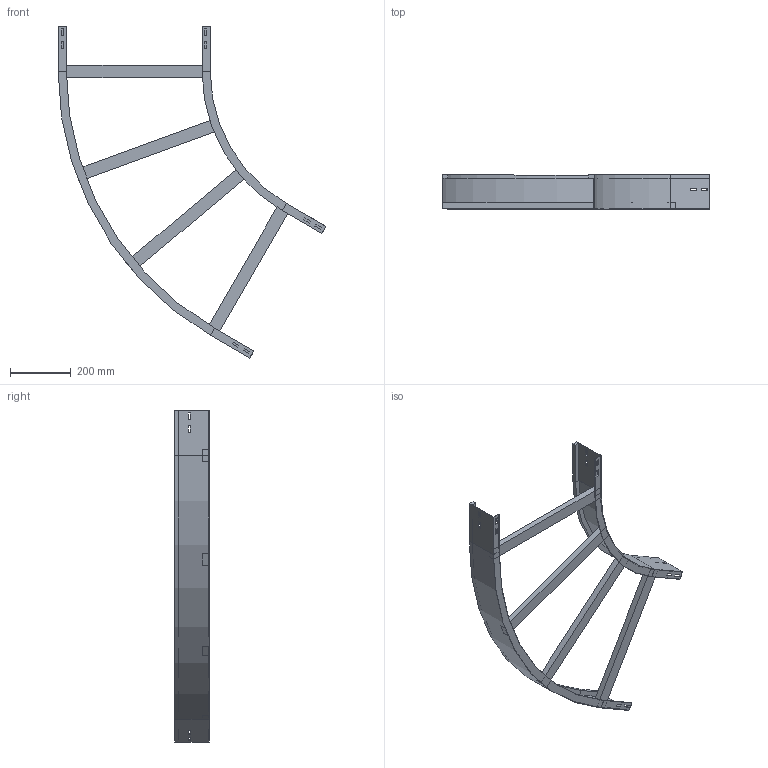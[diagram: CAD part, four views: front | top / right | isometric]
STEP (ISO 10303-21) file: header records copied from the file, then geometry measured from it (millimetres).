
FILE_DESCRIPTION (( 'STEP AP214' ), '1' );
FILE_NAME ('13B5J500.step', '2025-02-21T15:18:58', ( '' ), ( '' ), 'SwSTEP 2.0', 'SolidWorks 2023', '' );
FILE_SCHEMA (( 'AUTOMOTIVE_DESIGN' ));
Length unit declared in the file: millimetre
Products named in the file (4): 13B5J500; A2_LONGH.INTERNO 60°_H112.5_R500; A2_LONGH.ESTERNO 60°_H112.5_R500+500; TRAVERSINO_500
Assembly tree (6 placements, depth 2):
  13B5J500
    A2_LONGH.INTERNO 60°_H112.5_R500
    A2_LONGH.ESTERNO 60°_H112.5_R500+500
    TRAVERSINO_500  x4
Bounding box: 879.9 x 112.5 x 1091.03 mm (x, y, z)
Volume: 2615873.9 mm3; surface area: 920457.7 mm2
Topology: 6 solids, 6 shells, 140 faces, 352 edges, 224 vertices
Faces by surface type: plane 132, cylinder 8
Entity records: 3829 total; most frequent: CARTESIAN_POINT 647, ORIENTED_EDGE 632, DIRECTION 594, EDGE_CURVE 316, LINE 300, VECTOR 300, VERTEX_POINT 200, EDGE_LOOP 154
